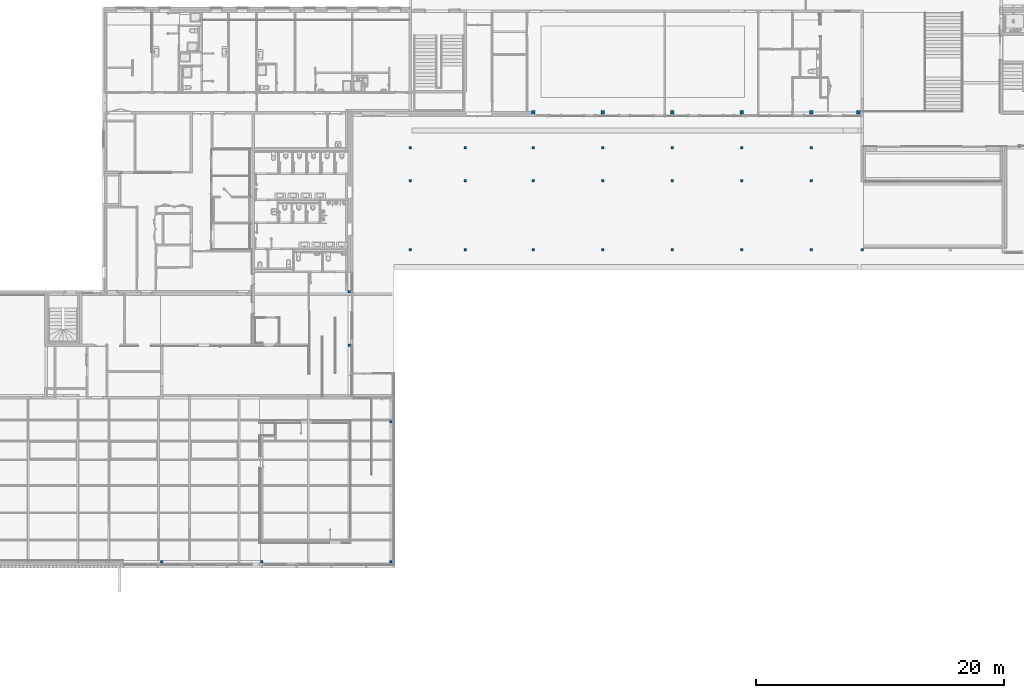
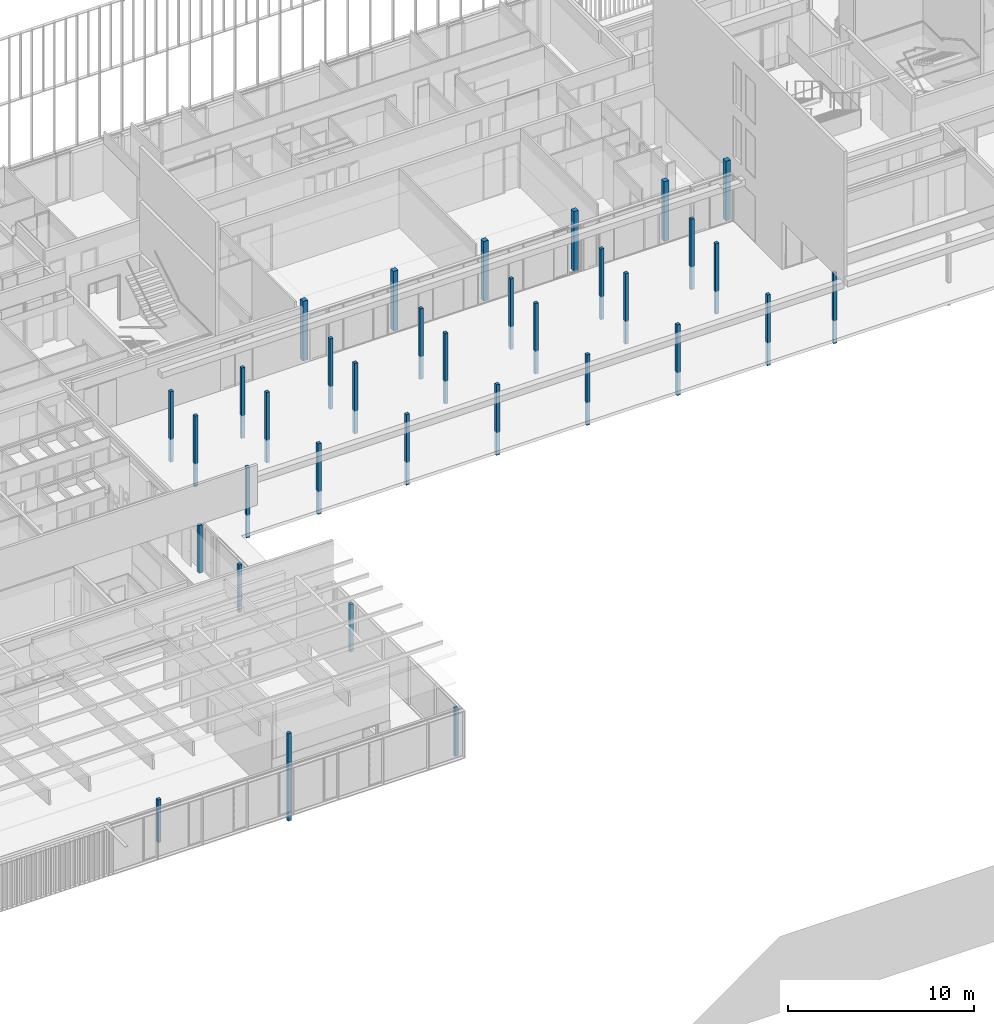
# One storey, part 1 of 240: 34 columns.
"""IFC2X3 building model written with IfcOpenShell, lengths in centimetres."""

from ifc_helpers import new_model, entity, si_unit, converted_unit, derived_unit, direction, frame, origin, origin_2d_with_axis, place, context, subcontext, project, spatial, rectangle, extrude, source, transform, mapped, material, type_object, type_shapes, element, save


model = new_model("IFC2X3")

# Units and contexts
model_context = context("Model", 3, precision=0.001, world=origin(), true_north=direction((6.12303176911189e-17, 1.0)))
body_context = subcontext(model_context, "Body", "Model", "MODEL_VIEW")
ifc_project = project(units=[si_unit("LENGTHUNIT", "METRE", prefix="CENTI"), si_unit("AREAUNIT", "SQUARE_METRE"), si_unit("VOLUMEUNIT", "CUBIC_METRE"), converted_unit("PLANEANGLEUNIT", "DEGREE", entity("IfcRatioMeasure", 0.0174532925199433), si_unit("PLANEANGLEUNIT", "RADIAN"), dimensions=[0, 0, 0, 0, 0, 0, 0]), si_unit("MASSUNIT", "GRAM", prefix="KILO"), derived_unit("MASSDENSITYUNIT", [(si_unit("MASSUNIT", "GRAM", prefix="KILO"), 1), (si_unit("LENGTHUNIT", "METRE"), -3)]), si_unit("TIMEUNIT", "SECOND"), si_unit("FREQUENCYUNIT", "HERTZ"), si_unit("THERMODYNAMICTEMPERATUREUNIT", "DEGREE_CELSIUS"), derived_unit("THERMALTRANSMITTANCEUNIT", [(si_unit("MASSUNIT", "GRAM", prefix="KILO"), 1), (si_unit("THERMODYNAMICTEMPERATUREUNIT", "KELVIN"), -1), (si_unit("TIMEUNIT", "SECOND"), -3)]), derived_unit("VOLUMETRICFLOWRATEUNIT", [(si_unit("LENGTHUNIT", "METRE"), 3), (si_unit("TIMEUNIT", "SECOND"), -1)]), si_unit("ELECTRICCURRENTUNIT", "AMPERE"), si_unit("ELECTRICVOLTAGEUNIT", "VOLT"), si_unit("POWERUNIT", "WATT"), si_unit("FORCEUNIT", "NEWTON", prefix="KILO"), si_unit("ILLUMINANCEUNIT", "LUX"), si_unit("LUMINOUSFLUXUNIT", "LUMEN"), si_unit("LUMINOUSINTENSITYUNIT", "CANDELA"), derived_unit("USERDEFINED", [(si_unit("MASSUNIT", "GRAM", prefix="KILO"), -1), (si_unit("LENGTHUNIT", "METRE"), -2), (si_unit("TIMEUNIT", "SECOND"), 3), (si_unit("LUMINOUSFLUXUNIT", "LUMEN"), 1)]), derived_unit("LINEARVELOCITYUNIT", [(si_unit("LENGTHUNIT", "METRE"), 1), (si_unit("TIMEUNIT", "SECOND"), -1)]), si_unit("PRESSUREUNIT", "PASCAL"), derived_unit("USERDEFINED", [(si_unit("LENGTHUNIT", "METRE"), -2), (si_unit("MASSUNIT", "GRAM", prefix="KILO"), 1), (si_unit("TIMEUNIT", "SECOND"), -2)])], contexts=[model_context])

# Site, building, storey
site_placement = place(None, frame((-2781.94577612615, 7442.24238424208, 0.0)))
site = spatial("IfcSite", under=ifc_project, at=site_placement, Name="Default", CompositionType="ELEMENT")
building_placement = place(site_placement, origin())
building = spatial("IfcBuilding", under=site, at=building_placement, CompositionType="ELEMENT")
storey_placement = place(building_placement, origin())
storey = spatial("IfcBuildingStorey", under=building, at=storey_placement, Name="N00 - COO", CompositionType="ELEMENT", Elevation=0.0)

# Columns
ifc_material = material(Name="Maçonnerie - Béton coulé sur place")
column_type_1 = type_object("IfcColumnType", Name="300mm x 300mm", PredefinedType="COLUMN")
shared_shape_1 = source(origin(), body_context, "Body", "SweptSolid", [
    extrude(rectangle(XDim=30.0, YDim=30.0, at=origin_2d_with_axis()), frame((0.0, 0.0, 0.0), z_axis=(0.0, 0.0, 1.0), x_axis=(0.0, -1.0, 0.0)), (0.0, 0.0, 1.0), 391.0),
])
type_shapes(column_type_1, [shared_shape_1])
for number, where in (
    (1, (-7429.50004166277, -1915.07903364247, 0.0)),
    (2, (-6869.50004166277, -1915.07903364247, 0.0)),
    (3, (-6309.50004166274, -1915.07903364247, 0.0)),
    (4, (-5749.49988166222, -1915.07903364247, 0.0)),
    (5, (-5189.50004166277, -1915.07903364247, 0.0)),
):
    element("IfcColumn", number, at=place(building_placement, frame(where)), inside=storey, type_object=column_type_1, material=ifc_material, Name="Poteau béton - Carré:300mm x 300mm", ObjectType="Poteau béton - Carré:300mm x 300mm", context=body_context, shape_type="MappedRepresentation", body=[
        mapped(shared_shape_1, transform((0.0, 0.0, 0.0), scale=1.0)),
    ])
column_type_2 = type_object("IfcColumnType", Name="200mm x 200mm", PredefinedType="COLUMN")
shared_shape_2 = source(origin(), body_context, "Body", "SweptSolid", [
    extrude(rectangle(XDim=20.0, YDim=20.0, at=origin_2d_with_axis()), frame((0.0, 0.0, -150.0), z_axis=(0.0, 0.0, 1.0), x_axis=(0.0, -1.0, 0.0)), (0.0, 0.0, 1.0), 463.0),
])
type_shapes(column_type_2, [shared_shape_2])
for number, where in (
    (6, (-5189.50004166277, -2465.15656731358, 0.0)),
    (7, (-5749.49988166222, -2465.15656731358, 0.0)),
    (8, (-6309.50004166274, -2465.15656731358, 0.0)),
    (9, (-6869.50004166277, -2465.15656731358, 0.0)),
    (10, (-7429.50004166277, -2465.15656731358, 0.0)),
    (11, (-7976.49987760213, -2465.15656731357, 0.0)),
    (12, (-8419.49987766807, -2465.15656731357, 0.0)),
    (13, (-4777.99987760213, -3020.31349958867, 0.0)),
    (14, (-5189.50004166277, -3020.31349958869, 0.0)),
    (15, (-5749.49988166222, -3020.31349958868, 0.0)),
    (16, (-6309.50004166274, -3020.31349958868, 0.0)),
    (17, (-6869.50004166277, -3020.31349958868, 0.0)),
    (18, (-7429.50004166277, -3020.31349958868, 0.0)),
    (19, (-7976.49987760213, -3020.31349958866, 0.0)),
    (20, (-8419.49987766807, -3020.31349958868, 0.0)),
):
    element("IfcColumn", number, at=place(building_placement, frame(where)), inside=storey, type_object=column_type_2, material=ifc_material, Name="Poteau béton - Carré:200mm x 200mm", ObjectType="Poteau béton - Carré:200mm x 200mm", context=body_context, shape_type="MappedRepresentation", body=[
        mapped(shared_shape_2, transform((0.0, 0.0, 0.0), scale=1.0)),
    ])
column_type_3 = type_object("IfcColumnType", Name="200mm x 200mm", PredefinedType="COLUMN")
shared_shape_3 = source(origin(), body_context, "Body", "SweptSolid", [
    extrude(rectangle(XDim=20.0, YDim=20.0, at=origin_2d_with_axis()), frame((0.0, 0.0, 80.0), z_axis=(0.0, 0.0, 1.0), x_axis=(0.0, -1.0, 0.0)), (0.0, 0.0, 1.0), 280.0),
])
type_shapes(column_type_3, [shared_shape_3])
column_1_placement = place(building_placement, frame((-10421.9647381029, -5536.50173441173, 0.0)))
element("IfcColumn", 21, at=column_1_placement, inside=storey, type_object=column_type_3, material=ifc_material, Name="Poteau béton - Carré:200mm x 200mm", ObjectType="Poteau béton - Carré:200mm x 200mm", context=body_context, shape_type="MappedRepresentation", body=[
    mapped(shared_shape_3, transform((0.0, 0.0, 0.0), scale=1.0)),
])
column_type_4 = type_object("IfcColumnType", Name="200mm x 200mm", PredefinedType="COLUMN")
shared_shape_4 = source(origin(), body_context, "Body", "SweptSolid", [
    extrude(rectangle(XDim=19.9999999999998, YDim=20.0000000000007, at=origin_2d_with_axis()), frame((-9614.81674610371, -5536.50173441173, -62.0), z_axis=(0.0, 0.0, 1.0), x_axis=(0.0, -1.0, 0.0)), (0.0, 0.0, 1.0), 574.0),
])
type_shapes(column_type_4, [shared_shape_4])
column_2_placement = place(building_placement, origin())
element("IfcColumn", 22, at=column_2_placement, inside=storey, type_object=column_type_4, material=ifc_material, Name="Poteau béton - Carré:200mm x 200mm", ObjectType="Poteau béton - Carré:200mm x 200mm", context=body_context, shape_type="MappedRepresentation", body=[
    mapped(shared_shape_4, transform((0.0, 0.0, 0.0), scale=1.0)),
])
column_type_5 = type_object("IfcColumnType", Name="200mm x 200mm", PredefinedType="COLUMN")
shared_shape_5 = source(origin(), body_context, "Body", "SweptSolid", [
    extrude(rectangle(XDim=19.9999999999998, YDim=20.0000000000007, at=origin_2d_with_axis()), frame((-8911.932180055, -3790.71966115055, 0.0), z_axis=(0.0, 0.0, 1.0), x_axis=(0.0, -1.0, 0.0)), (0.0, 0.0, 1.0), 313.0),
])
type_shapes(column_type_5, [shared_shape_5])
column_3_placement = place(building_placement, origin())
element("IfcColumn", 23, at=column_3_placement, inside=storey, type_object=column_type_5, material=ifc_material, Name="Poteau béton - Carré:200mm x 200mm", ObjectType="Poteau béton - Carré:200mm x 200mm", context=body_context, shape_type="MappedRepresentation", body=[
    mapped(shared_shape_5, transform((0.0, 0.0, 0.0), scale=1.0)),
])
column_type_6 = type_object("IfcColumnType", Name="300mm x 300mm", PredefinedType="COLUMN")
shared_shape_6 = source(origin(), body_context, "Body", "SweptSolid", [
    extrude(rectangle(XDim=30.0, YDim=30.0, at=origin_2d_with_axis()), frame((0.0, 0.0, 0.0), z_axis=(0.0, 0.0, 1.0), x_axis=(0.0, -1.0, 0.0)), (0.0, 0.0, 1.0), 391.0),
])
type_shapes(column_type_6, [shared_shape_6])
column_4_placement = place(storey_placement, frame((-4806.99987760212, -1915.07903364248, 0.0)))
element("IfcColumn", 24, at=column_4_placement, inside=storey, type_object=column_type_6, material=ifc_material, Name="Poteau béton - Carré:300mm x 300mm", ObjectType="Poteau béton - Carré:300mm x 300mm", context=body_context, shape_type="MappedRepresentation", body=[
    mapped(shared_shape_6, transform((0.0, 0.0, 0.0), scale=1.0)),
])
column_type_7 = type_object("IfcColumnType", Name="200mm x 200mm", PredefinedType="COLUMN")
shared_shape_7 = source(origin(), body_context, "Body", "SweptSolid", [
    extrude(rectangle(XDim=20.0, YDim=20.0, at=origin_2d_with_axis()), frame((0.0, 0.0, -150.0), z_axis=(0.0, 0.0, 1.0), x_axis=(0.0, -1.0, 0.0)), (0.0, 0.0, 1.0), 463.0),
])
type_shapes(column_type_7, [shared_shape_7])
for number, where in (
    (25, (-5189.50004166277, -2200.15656731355, 0.0)),
    (26, (-5749.49988166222, -2200.15656731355, 0.0)),
    (27, (-6309.50004166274, -2200.15656731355, 0.0)),
    (28, (-6869.50004166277, -2200.15656731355, 0.0)),
    (29, (-7429.50004166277, -2200.15656731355, 0.0)),
    (30, (-7976.49987760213, -2200.15656731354, 0.0)),
    (31, (-8419.49987766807, -2200.15656731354, 0.0)),
):
    element("IfcColumn", number, at=place(storey_placement, frame(where)), inside=storey, type_object=column_type_7, material=ifc_material, Name="Poteau béton - Carré:200mm x 200mm", ObjectType="Poteau béton - Carré:200mm x 200mm", context=body_context, shape_type="MappedRepresentation", body=[
        mapped(shared_shape_7, transform((0.0, 0.0, 0.0), scale=1.0)),
    ])
column_type_8 = type_object("IfcColumnType", Name="200mm x 200mm", PredefinedType="COLUMN")
shared_shape_8 = source(origin(), body_context, "Body", "SweptSolid", [
    extrude(rectangle(XDim=20.0, YDim=20.0, at=origin_2d_with_axis()), frame((0.0, 0.0, 0.0), z_axis=(0.0, 0.0, 1.0), x_axis=(0.0, -1.0, 0.0)), (0.0, 0.0, 1.0), 313.0),
])
type_shapes(column_type_8, [shared_shape_8])
column_5_placement = place(storey_placement, frame((-8578.98738089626, -5536.50173441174, 0.0)))
element("IfcColumn", 32, at=column_5_placement, inside=storey, type_object=column_type_8, material=ifc_material, Name="Poteau béton - Carré:200mm x 200mm", ObjectType="Poteau béton - Carré:200mm x 200mm", context=body_context, shape_type="MappedRepresentation", body=[
    mapped(shared_shape_8, transform((0.0, 0.0, 0.0), scale=1.0)),
])
column_type_9 = type_object("IfcColumnType", Name="200mm x 200mm", PredefinedType="COLUMN")
shared_shape_9 = source(origin(), body_context, "Body", "SweptSolid", [
    extrude(rectangle(XDim=19.9999999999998, YDim=20.0000000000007, at=origin_2d_with_axis()), frame((-8578.98738089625, -4408.50027342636, 0.0), z_axis=(0.0, 0.0, 1.0), x_axis=(0.0, -1.0, 0.0)), (0.0, 0.0, 1.0), 313.0),
])
type_shapes(column_type_9, [shared_shape_9])
column_6_placement = place(storey_placement, origin())
element("IfcColumn", 33, at=column_6_placement, inside=storey, type_object=column_type_9, material=ifc_material, Name="Poteau béton - Carré:200mm x 200mm", ObjectType="Poteau béton - Carré:200mm x 200mm", context=body_context, shape_type="MappedRepresentation", body=[
    mapped(shared_shape_9, transform((0.0, 0.0, 0.0), scale=1.0)),
])
column_type_10 = type_object("IfcColumnType", Name="200mm x 200mm", PredefinedType="COLUMN")
shared_shape_10 = source(origin(), body_context, "Body", "SweptSolid", [
    extrude(rectangle(XDim=19.9999999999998, YDim=20.0000000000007, at=origin_2d_with_axis()), frame((-8911.932180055, -3362.52180651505, 0.0), z_axis=(0.0, 0.0, 1.0), x_axis=(0.0, -1.0, 0.0)), (0.0, 0.0, 1.0), 313.0),
])
type_shapes(column_type_10, [shared_shape_10])
column_7_placement = place(storey_placement, origin())
element("IfcColumn", 34, at=column_7_placement, inside=storey, type_object=column_type_10, material=ifc_material, Name="Poteau béton - Carré:200mm x 200mm", ObjectType="Poteau béton - Carré:200mm x 200mm", context=body_context, shape_type="MappedRepresentation", body=[
    mapped(shared_shape_10, transform((0.0, 0.0, 0.0), scale=1.0)),
])

save(model, "model.ifc")
